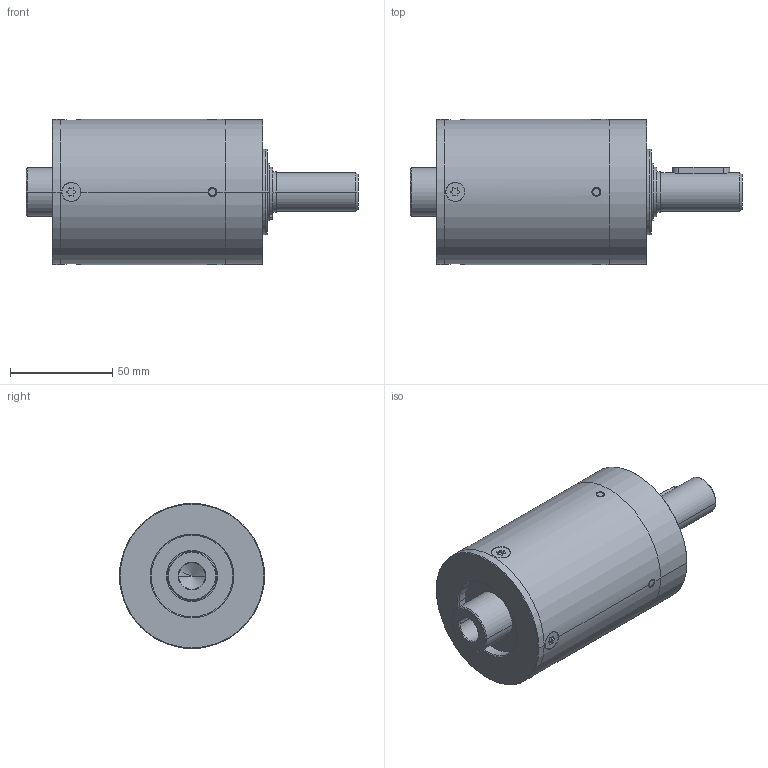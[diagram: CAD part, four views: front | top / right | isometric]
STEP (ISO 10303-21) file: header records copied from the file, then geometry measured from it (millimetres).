
FILE_DESCRIPTION((''),'2;1');
FILE_NAME('IMS71_PRO_MAX_2_STAGE_ASM','2023-07-27T09:46:52',('mhummel'),(''),'CREO PARAMETRIC BY PTC INC, 2020184','CREO PARAMETRIC BY PTC INC, 2020184','');
FILE_SCHEMA(('AUTOMOTIVE_DESIGN { 1 0 10303 214 1 1 1 1 }'));
Length unit declared in the file: millimetre
Products named in the file (16): IMS71_PRO_MAX_BEARING_FLANGE; IMS71_PRO_MAX_BALL_BEARING; IMS71_PRO_MAX_RING_GEAR_2; IMS71_PRO_MAX_CYLINDER_PIN; IMS71_PRO_MAX_RING_GEAR_2_STAGE_ASM; IMS71_PRO_MAX_MOTOR_FLANGE; IMS71_PRO_MAX_SHAFT_RAW_AF0; IMS71_PRO_MAX_SHAFT_ASM; IMS71_PRO_MAX_SHIM_RING; IMS71_PRO_MAX_RETAINING_RING_A; IMS71_PRO_MAX_FEATHER_KEY; IMS71_PRO_MAX_THRUST_WASHER; IMS71_PRO_MAX_SCREW; IMS71_PRO_MAX_MO_PINION_LONG; IMS71_PRO_MAX_MO_PINION_SHORT; IMS71_PRO_MAX_2_STAGE_ASM
Assembly tree (22 placements, depth 3):
  IMS71_PRO_MAX_2_STAGE_ASM
    IMS71_PRO_MAX_BEARING_FLANGE
    IMS71_PRO_MAX_BALL_BEARING  x2
    IMS71_PRO_MAX_RING_GEAR_2_STAGE_ASM
      IMS71_PRO_MAX_RING_GEAR_2
      IMS71_PRO_MAX_CYLINDER_PIN  x4
    IMS71_PRO_MAX_MOTOR_FLANGE
    IMS71_PRO_MAX_SHAFT_ASM
      IMS71_PRO_MAX_SHAFT_RAW_AF0
    IMS71_PRO_MAX_SHIM_RING
    IMS71_PRO_MAX_RETAINING_RING_A
    IMS71_PRO_MAX_FEATHER_KEY
    IMS71_PRO_MAX_THRUST_WASHER
    IMS71_PRO_MAX_SCREW  x4
    IMS71_PRO_MAX_MO_PINION_LONG
    IMS71_PRO_MAX_MO_PINION_SHORT
Bounding box: 162.55 x 71 x 71 mm (x, y, z)
Volume: 306208.2 mm3; surface area: 107166.6 mm2
Topology: 24 solids, 26 shells, 484 faces, 1085 edges, 650 vertices
Faces by surface type: cylinder 204, plane 120, cone 84, torus 60, revolution 16
Entity records: 13339 total; most frequent: CARTESIAN_POINT 2260, DIRECTION 1741, ORIENTED_EDGE 1378, PRESENTATION_STYLE_ASSIGNMENT 813, STYLED_ITEM 809, AXIS2_PLACEMENT_3D 729, CURVE_STYLE 693, EDGE_CURVE 689
